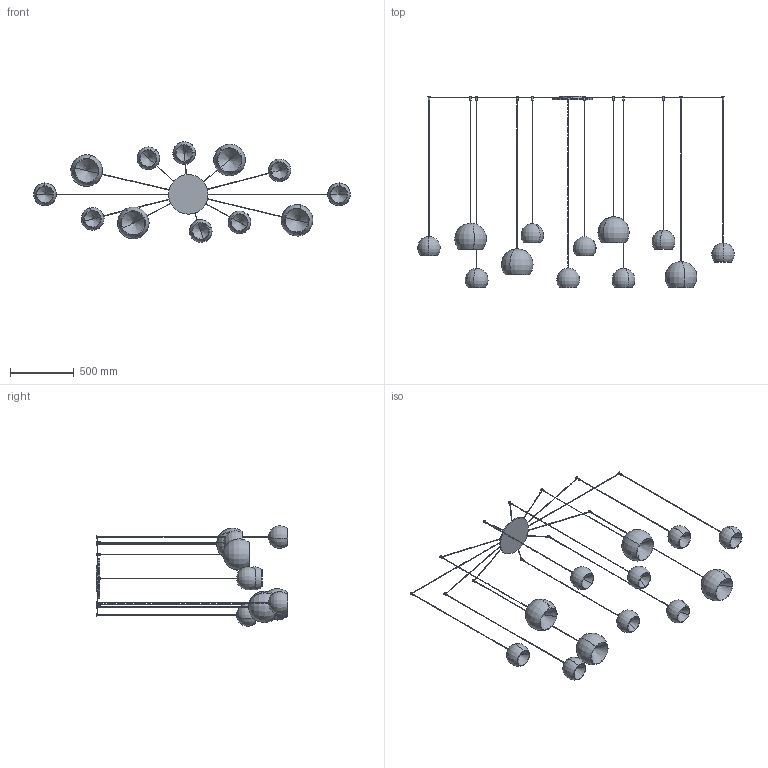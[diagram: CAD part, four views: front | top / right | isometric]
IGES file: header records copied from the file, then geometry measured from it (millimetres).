
Start section: SolidWorks IGES file using analytic representation for surfaces
Global section: file name: Y:\eforma\TECNICO\SOLIDWORKS\E-FORMA\09-LAMPADE\CHERRY MIX\02 parts\CRMA2-00-CHERRY MIX_12 sospensione.IGS; native system: SolidWorks 2022; preprocessor: SolidWorks 2022; author: eforma.tech; date: 250506.093607; units: millimetre
Bounding box: 2483.72 x 1500 x 789.13 mm (x, y, z)
Volume: 4442199.3 mm3; surface area: 3743056.1 mm2
Topology: 61 solids, 61 shells, 449 faces, 950 edges, 600 vertices
Faces by surface type: revolution 302, plane 147
